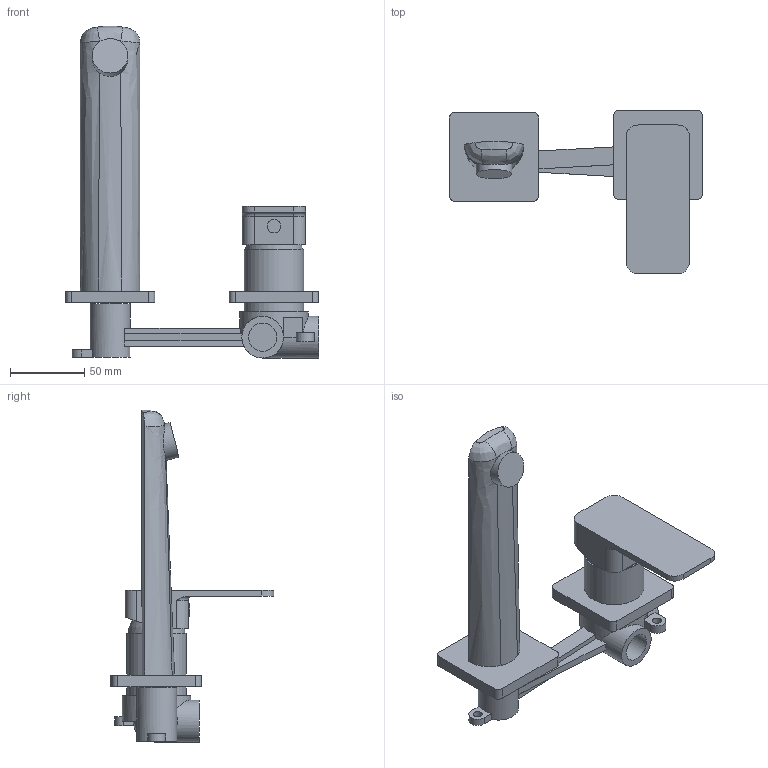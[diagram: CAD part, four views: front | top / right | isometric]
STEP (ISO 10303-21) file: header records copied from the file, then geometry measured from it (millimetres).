
FILE_DESCRIPTION(/* description */ ('LOFT bateria umywalkowa podtynkowa z wylewką'),/* implementation_level */ '2;1');
FILE_NAME(/* name */ 'C:\Nextcloud\02_biblioteki_cad\Valvex\Projekt\PROJECTS\Eksport\ETAP 1\2454780\2454780.stp',/* time_stamp */ '2021-06-17T15:39:33+02:00',/* author */ ('Cadventure'),/* organization */ (''),/* preprocessor_version */ 'ST-DEVELOPER v18.1',/* originating_system */ 'Autodesk Inventor 2020',/* authorisation */ '');
FILE_SCHEMA (('AUTOMOTIVE_DESIGN { 1 0 10303 214 3 1 1 }'));
Length unit declared in the file: millimetre
Products named in the file (1): 2454780
Bounding box: 170 x 110 x 223 mm (x, y, z)
Volume: 351944.1 mm3; surface area: 73805.6 mm2
Topology: 4 solids, 4 shells, 102 faces, 263 edges, 176 vertices
Faces by surface type: plane 56, cylinder 34, bspline 9, torus 2, sphere 1
Full cylindrical faces by diameter (mm): 6 x3, 9 x1, 12 x1, 19 x2, 24 x1, 27 x1, 28 x2, 40 x2, 46 x1
Entity records: 3721 total; most frequent: CARTESIAN_POINT 1158, ORIENTED_EDGE 522, DIRECTION 516, EDGE_CURVE 261, AXIS2_PLACEMENT_3D 191, VERTEX_POINT 176, LINE 134, VECTOR 134
